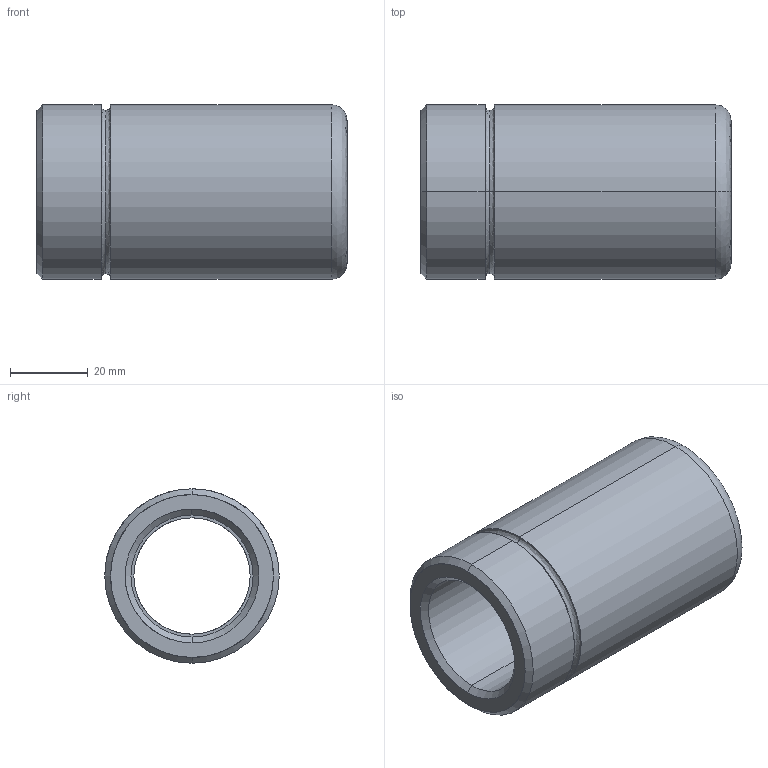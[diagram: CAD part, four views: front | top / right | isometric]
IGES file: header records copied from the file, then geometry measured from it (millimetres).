
Start section: START RECORD GO HERE.
Global section: file name: 348-30 x 80.igs; native system: DASSAULT SYSTEMES CATIA V5 R20 - www.3ds.com; preprocessor: CATIA Version 5 Release 20 ; author: Utente; organization: NB04-ASUS; date: 20201230.205606; units: millimetre
Bounding box: 80 x 45 x 45 mm (x, y, z)
Surface area: 20672.3 mm2 (no closed solid volume)
Topology: 0 solids, 0 shells, 29 faces, 172 edges, 172 vertices
Faces by surface type: revolution 26, plane 3
